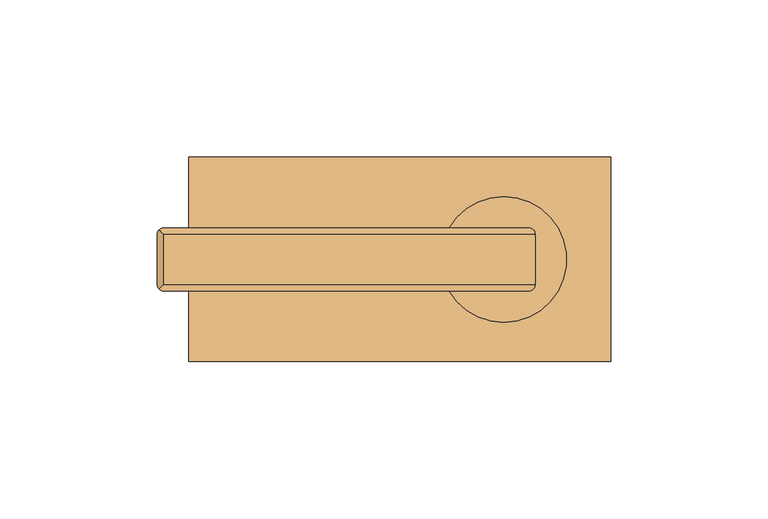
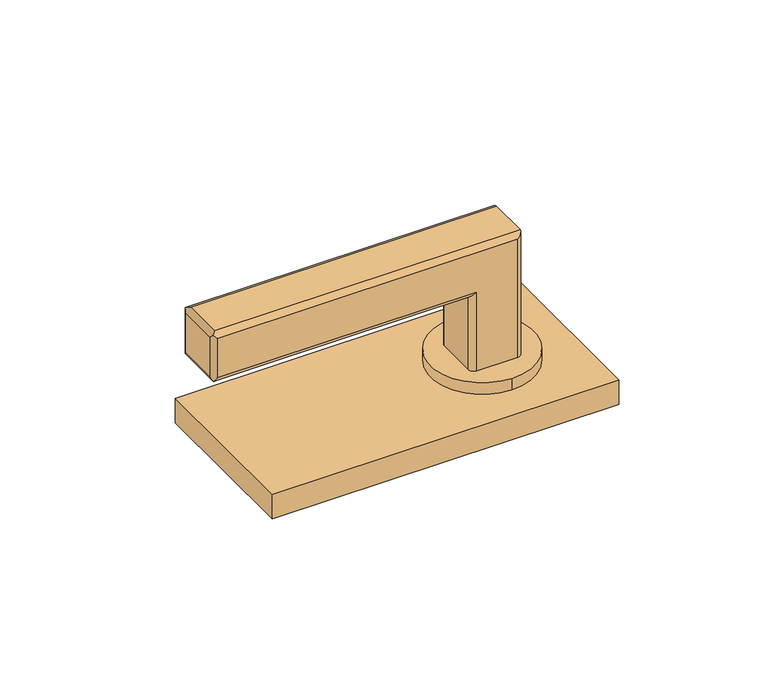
"""IFC4 building model written with IfcOpenShell, lengths in millimetres: door geometry, VERTI - kování M&T : KVADRA."""

from ifc_helpers import new_model, si_unit, point, frame, origin, origin_with_axes, origin_2d, place, context, project, spatial, polyline, circle_curve, ellipse_curve, trimmed, segment, composite_curve, outline, extrude, source, transform, mapped, element, save
from ifc_brep_helpers import plane_surface, cylinder_surface, advanced_brep


def door_728d9884(model_context):
    return source(origin(), model_context, "Body", "SolidModel", [
        extrude(outline(polyline([(-100.0, -32.5), (-100.0, 32.5), (34.0, 32.5), (34.0, -32.5), (-100.0, -32.5)])), origin_with_axes(), (0.0, 0.0, 1.0), 10.0),
        advanced_brep(
        [(-8.0, 10.0, 0.0), (8.0, 10.0, 0.0), (10.0, 8.0, 0.0), (10.0, -8.0, 0.0), (8.0, -10.0, 0.0), (-8.0, -10.0, 0.0), (-10.0, -8.0, 0.0), (-10.0, 8.0, 0.0), (-8.0, 10.0, 47.0), (-108.0, 10.0, 47.0), (-108.0, 10.0, 63.0), (8.0, 10.0, 63.0), (10.0, 8.0, 65.0), (10.0, -8.0, 65.0), (8.0, -10.0, 63.0), (-108.0, -10.0, 63.0), (-108.0, -10.0, 47.0), (-8.0, -10.0, 47.0), (-10.0, -8.0, 45.0), (-10.0, 8.0, 45.0), (-110.0, 8.0, 47.0), (-110.0, -8.0, 47.0), (-110.0, -8.0, 63.0), (-110.0, 8.0, 63.0), (-109.4142136, 9.4142136, 64.4142136), (-108.0, 8.0, 65.0), (-108.0, -8.0, 65.0), (-109.4142136, -9.4142136, 64.4142136), (-109.4142136, -9.4142136, 45.5857864), (-108.0, -8.0, 45.0), (-108.0, 8.0, 45.0), (-109.4142136, 9.4142136, 45.5857864)],
        [
            (0, 1),
            (1, 2, circle_curve(frame((8.0, 8.0, 0.0), z_axis=(0.0, 0.0, -1.0), x_axis=(1.0, 0.0, 0.0)), 2.0)),
            (2, 3),
            (3, 4, circle_curve(frame((8.0, -8.0, 0.0), z_axis=(0.0, 0.0, -1.0), x_axis=(1.0, 0.0, 0.0)), 2.0)),
            (4, 5),
            (5, 6, circle_curve(frame((-8.0, -8.0, 0.0), z_axis=(0.0, 0.0, -1.0), x_axis=(1.0, 0.0, 0.0)), 2.0)),
            (6, 7),
            (7, 0, circle_curve(frame((-8.0, 8.0, 0.0), z_axis=(0.0, 0.0, -1.0), x_axis=(1.0, 0.0, 0.0)), 2.0)),
            (0, 8),
            (8, 9),
            (9, 10),
            (10, 11),
            (11, 1),
            (11, 12, ellipse_curve(frame((8.0, 8.0, 63.0), z_axis=(0.7071067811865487, 0.0, -0.7071067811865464), x_axis=(-0.7071067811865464, 0.0, -0.7071067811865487)), 2.8284271, 2.0)),
            (12, 2),
            (12, 13),
            (13, 3),
            (13, 14, ellipse_curve(frame((8.0, -8.0, 63.0), z_axis=(0.7071067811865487, 0.0, -0.7071067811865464), x_axis=(-0.7071067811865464, 0.0, -0.7071067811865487)), 2.8284271, 2.0)),
            (14, 4),
            (14, 15),
            (15, 16),
            (16, 17),
            (17, 5),
            (17, 18, ellipse_curve(frame((-8.0, -8.0, 47.0), z_axis=(0.7071067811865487, 0.0, -0.7071067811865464), x_axis=(-0.7071067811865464, 0.0, -0.7071067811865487)), 2.8284271, 2.0)),
            (18, 6),
            (18, 19),
            (19, 7),
            (19, 8, ellipse_curve(frame((-8.0, 8.0, 47.0), z_axis=(0.7071067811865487, 0.0, -0.7071067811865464), x_axis=(-0.7071067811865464, 0.0, -0.7071067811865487)), 2.8284271, 2.0)),
            (20, 21),
            (21, 22),
            (22, 23),
            (23, 20),
            (10, 24, ellipse_curve(frame((-108.0, 8.0, 63.0), z_axis=(0.7071067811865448, 0.0, 0.7071067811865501), x_axis=(0.7071067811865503, 0.0, -0.7071067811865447)), 2.8284271, 2.0)),
            (24, 25, ellipse_curve(frame((-108.0, 8.0, 63.0), z_axis=(0.7071067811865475, 0.7071067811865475, 0.0), x_axis=(0.7071067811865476, -0.7071067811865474, 0.0)), 2.8284271, 2.0)),
            (25, 12),
            (25, 26),
            (26, 13),
            (26, 27, ellipse_curve(frame((-108.0, -8.0, 63.0), z_axis=(0.7071067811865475, -0.7071067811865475, 0.0), x_axis=(0.7071067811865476, 0.7071067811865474, 0.0)), 2.8284271, 2.0)),
            (27, 15, ellipse_curve(frame((-108.0, -8.0, 63.0), z_axis=(0.7071067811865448, 0.0, 0.7071067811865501), x_axis=(0.7071067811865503, 0.0, -0.7071067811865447)), 2.8284271, 2.0)),
            (16, 28, ellipse_curve(frame((-108.0, -8.0, 47.0), z_axis=(0.7071067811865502, 0.0, -0.7071067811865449), x_axis=(0.7071067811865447, 0.0, 0.7071067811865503)), 2.8284271, 2.0)),
            (28, 29, ellipse_curve(frame((-108.0, -8.0, 47.0), z_axis=(0.7071067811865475, -0.7071067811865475, 0.0), x_axis=(0.7071067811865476, 0.7071067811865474, 0.0)), 2.8284271, 2.0)),
            (29, 18),
            (29, 30),
            (30, 19),
            (30, 31, ellipse_curve(frame((-108.0, 8.0, 47.0), z_axis=(0.7071067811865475, 0.7071067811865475, 0.0), x_axis=(0.7071067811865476, -0.7071067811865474, 0.0)), 2.8284271, 2.0)),
            (31, 9, ellipse_curve(frame((-108.0, 8.0, 47.0), z_axis=(0.7071067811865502, 0.0, -0.7071067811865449), x_axis=(0.7071067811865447, 0.0, 0.7071067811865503)), 2.8284271, 2.0)),
            (28, 21, ellipse_curve(frame((-108.0, -8.0, 47.0), z_axis=(0.0, 0.7071067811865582, -0.7071067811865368), x_axis=(0.0, -0.7071067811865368, -0.7071067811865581)), 2.8284271, 2.0)),
            (20, 31, ellipse_curve(frame((-108.0, 8.0, 47.0), z_axis=(0.0, -0.7071067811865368, -0.7071067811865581), x_axis=(0.0, -0.7071067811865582, 0.7071067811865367)), 2.8284271, 2.0)),
            (27, 22, ellipse_curve(frame((-108.0, -8.0, 63.0), z_axis=(0.0, -0.7071067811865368, -0.7071067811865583), x_axis=(0.0, -0.7071067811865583, 0.7071067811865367)), 2.8284271, 2.0)),
            (24, 23, ellipse_curve(frame((-108.0, 8.0, 63.0), z_axis=(0.0, -0.7071067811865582, 0.7071067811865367), x_axis=(0.0, 0.7071067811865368, 0.7071067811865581)), 2.8284271, 2.0)),
        ],
        [
            plane_surface(frame((0.0, 0.0, 0.0), z_axis=(0.0, 0.0, -1.0), x_axis=(0.0, 1.0, 0.0))),
            plane_surface(frame((-8.0, 10.0, 0.0), z_axis=(0.0, 1.0, 0.0), x_axis=(0.0, 0.0, 1.0))),
            cylinder_surface(frame((8.0, 8.0, 0.0), z_axis=(0.0, 0.0, -1.0), x_axis=(1.0, 0.0, 0.0)), 2.0),
            plane_surface(frame((10.0, 8.0, 0.0), z_axis=(1.0, 0.0, 0.0), x_axis=(0.0, 0.0, 1.0))),
            cylinder_surface(frame((8.0, -8.0, 0.0), z_axis=(0.0, 0.0, -1.0), x_axis=(1.0, 0.0, 0.0)), 2.0),
            plane_surface(frame((8.0, -10.0, 0.0), z_axis=(0.0, -1.0, 0.0), x_axis=(0.0, 0.0, 1.0))),
            cylinder_surface(frame((-8.0, -8.0, 0.0), z_axis=(0.0, 0.0, -1.0), x_axis=(1.0, 0.0, 0.0)), 2.0),
            plane_surface(frame((-10.0, -8.0, 0.0), z_axis=(-1.0, 0.0, 0.0), x_axis=(0.0, 0.0, 1.0))),
            cylinder_surface(frame((-8.0, 8.0, 0.0), z_axis=(0.0, 0.0, -1.0), x_axis=(1.0, 0.0, 0.0)), 2.0),
            plane_surface(frame((-110.0, 0.0, 55.0), z_axis=(-1.0, 0.0, 0.0), x_axis=(0.0, 1.0, 0.0))),
            cylinder_surface(frame((0.0, 8.0, 63.0), z_axis=(1.0, 0.0, 0.0), x_axis=(0.0, 0.0, 1.0)), 2.0),
            plane_surface(frame((10.0, 8.0, 65.0), z_axis=(0.0, 0.0, 1.0), x_axis=(-1.0, 0.0, 0.0))),
            cylinder_surface(frame((0.0, -8.0, 63.0), z_axis=(1.0, 0.0, 0.0), x_axis=(0.0, 0.0, 1.0)), 2.0),
            cylinder_surface(frame((0.0, -8.0, 47.0), z_axis=(1.0, 0.0, 0.0), x_axis=(0.0, 0.0, 1.0)), 2.0),
            plane_surface(frame((-10.0, -8.0, 45.0), z_axis=(0.0, 0.0, -1.0), x_axis=(-1.0, 0.0, 0.0))),
            cylinder_surface(frame((0.0, 8.0, 47.0), z_axis=(1.0, 0.0, 0.0), x_axis=(0.0, 0.0, 1.0)), 2.0),
            cylinder_surface(frame((-108.0, 10.0, 47.0), z_axis=(0.0, -1.0, 0.0), x_axis=(1.0, 0.0, 0.0)), 2.0),
            cylinder_surface(frame((-108.0, -8.0, 45.0), z_axis=(0.0, 0.0, 1.0), x_axis=(1.0, 0.0, 0.0)), 2.0),
            cylinder_surface(frame((-108.0, -10.0, 63.0), z_axis=(0.0, 1.0, 0.0), x_axis=(1.0, 0.0, 0.0)), 2.0),
            cylinder_surface(frame((-108.0, 8.0, 65.0), z_axis=(0.0, 0.0, -1.0), x_axis=(1.0, 0.0, 0.0)), 2.0),
        ],
        [
            (0, [[1, 2, 3, 4, 5, 6, 7, 8]]),
            (1, [[-1, 9, 10, 11, 12, 13]]),
            (2, [[-2, -13, 14, 15]]),
            (3, [[-3, -15, 16, 17]]),
            (4, [[-4, -17, 18, 19]]),
            (5, [[-5, -19, 20, 21, 22, 23]]),
            (6, [[-6, -23, 24, 25]]),
            (7, [[-7, -25, 26, 27]]),
            (8, [[-8, -27, 28, -9]]),
            (9, [[29, 30, 31, 32]]),
            (10, [[-14, -12, 33, 34, 35]]),
            (11, [[-16, -35, 36, 37]]),
            (12, [[-18, -37, 38, 39, -20]]),
            (13, [[-24, -22, 40, 41, 42]]),
            (14, [[-26, -42, 43, 44]]),
            (15, [[-28, -44, 45, 46, -10]]),
            (16, [[47, -29, 48, -45, -43, -41]]),
            (17, [[-47, -40, -21, -39, 49, -30]]),
            (18, [[-49, -38, -36, -34, 50, -31]]),
            (19, [[-50, -33, -11, -46, -48, -32]]),
        ],
    ),
        extrude(outline(composite_curve([segment(trimmed(circle_curve(origin_2d(), 20.0), [point((0.0, 20.0))], [point((0.0, -20.0))], False, "CARTESIAN"), True, "CONTINUOUS"), segment(trimmed(circle_curve(origin_2d(), 20.0), [point((0.0, -20.0))], [point((0.0, 20.0))], False, "CARTESIAN"), True, "CONTINUOUS")], self_intersect=False)), frame((0.0, 0.0, 10.0), z_axis=(0.0, 0.0, 1.0), x_axis=(1.0, 0.0, 0.0)), (0.0, 0.0, 1.0), 5.0),
    ])


if __name__ == "__main__":
    model = new_model("IFC4")
    model_context = context("Model", 3, world=origin())
    ifc_project = project(units=[si_unit("LENGTHUNIT", "METRE", prefix="MILLI")], contexts=[model_context])
    site = spatial("IfcSite", under=ifc_project)
    building = spatial("IfcBuilding", under=site)
    placement = place(None, origin())
    door_shape = door_728d9884(model_context)
    element("IfcDoor", 1, ObjectType="VERTI - kování M&T : KVADRA", at=placement, inside=building, context=model_context, shape_type="MappedRepresentation", body=[
        mapped(door_shape, transform((0.0, 0.0, 0.0), x_axis=(1.0, 0.0, 0.0), y_axis=(0.0, 1.0, 0.0), z_axis=(0.0, 0.0, 1.0))),
    ])
    save(model, "model.ifc")
